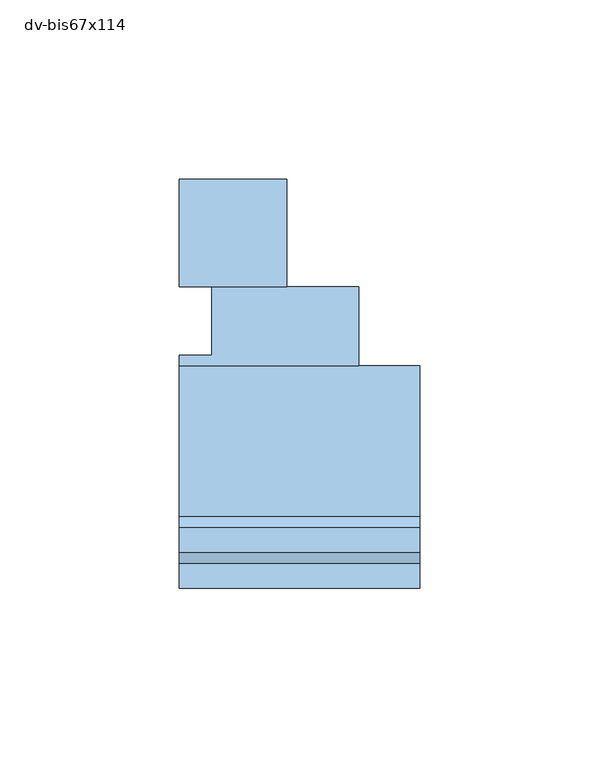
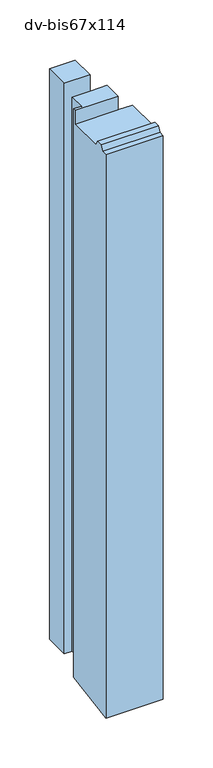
"""IFC4 building model written with IfcOpenShell, lengths in millimetres: window geometry, NLRS_30_WIN_zijstijl_sh_gen_TOBA-JM : dv-bis67x114."""

from ifc_helpers import new_model, si_unit, origin, place, context, project, spatial, faceted_brep, source, transform, mapped, element, save


def dv_bis67x114_da2e3f7c(model_context):
    return source(origin(), model_context, "Body", "Brep", [
        faceted_brep([(50.0, 84.0, 750.0), (50.0, 62.0, 750.0), (50.0, 62.0, 733.0), (50.0, 62.0, 49.2361111), (50.0, 72.0, 51.0), (50.0, 72.0, 67.0), (50.0, 84.0, 67.0), (67.0, 62.0, 733.0), (67.0, 62.0, 49.2361111), (67.0, 20.0, 733.0), (67.0, 17.0, 739.0), (67.0, 10.0, 739.0), (67.0, 7.0, 733.0), (67.0, 0.0, 733.0), (67.0, 0.0, 38.3), (0.0, 0.0, 733.0), (0.0, 0.0, 38.3), (0.0, 62.0, 750.0), (0.0, 65.0, 750.0), (0.0, 65.0, 49.7652778), (0.0, 7.0, 733.0), (0.0, 10.0, 739.0), (0.0, 17.0, 739.0), (0.0, 20.0, 733.0), (0.0, 62.0, 733.0), (9.0, 65.0, 750.0), (9.0, 65.0, 49.7652778), (9.0, 84.0, 750.0), (9.0, 84.0, 67.0), (9.0, 72.0, 67.0), (9.0, 72.0, 51.0), (30.0, 84.0, 750.0), (30.0, 84.0, 770.0), (0.0, 84.0, 770.0), (0.0, 84.0, 67.0), (0.0, 114.0, 770.0), (0.0, 114.0, 67.0), (30.0, 114.0, 770.0), (30.0, 114.0, 67.0), (30.0, 84.0, 67.0)], [[[0, 1, 2, 3, 4, 5, 6]], [[2, 7, 8, 3]], [[7, 9, 10, 11, 12, 13, 14, 8]], [[13, 15, 16, 14]], [[17, 18, 19, 16, 15, 20, 21, 22, 23, 24]], [[18, 25, 26, 19]], [[25, 27, 28, 29, 30, 26]], [[27, 31, 32, 33, 34, 28]], [[33, 35, 36, 34]], [[35, 37, 38, 36]], [[30, 4, 3, 8, 14, 16, 19, 26]], [[4, 30, 29, 5]], [[5, 29, 28, 34, 36, 38, 39, 6]], [[31, 0, 6, 39]], [[37, 32, 31, 39, 38]], [[35, 33, 32, 37]], [[17, 1, 0, 31, 27, 25, 18]], [[1, 17, 24, 2]], [[23, 9, 7, 2, 24]], [[9, 23, 22, 10]], [[10, 22, 21, 11]], [[11, 21, 20, 12]], [[12, 20, 15, 13]]]),
    ])


if __name__ == "__main__":
    model = new_model("IFC4")
    model_context = context("Model", 3, world=origin())
    ifc_project = project(units=[si_unit("LENGTHUNIT", "METRE", prefix="MILLI")], contexts=[model_context])
    site = spatial("IfcSite", under=ifc_project)
    building = spatial("IfcBuilding", under=site)
    placement = place(None, origin())
    dv_bis67x114_shape = dv_bis67x114_da2e3f7c(model_context)
    element("IfcWindow", 1, ObjectType="NLRS_30_WIN_zijstijl_sh_gen_TOBA-JM : dv-bis67x114", at=placement, inside=building, context=model_context, shape_type="MappedRepresentation", body=[
        mapped(dv_bis67x114_shape, transform((0.0, 0.0, 0.0), x_axis=(1.0, 0.0, 0.0), y_axis=(0.0, 1.0, 0.0), z_axis=(0.0, 0.0, 1.0))),
    ])
    save(model, "model.ifc")
